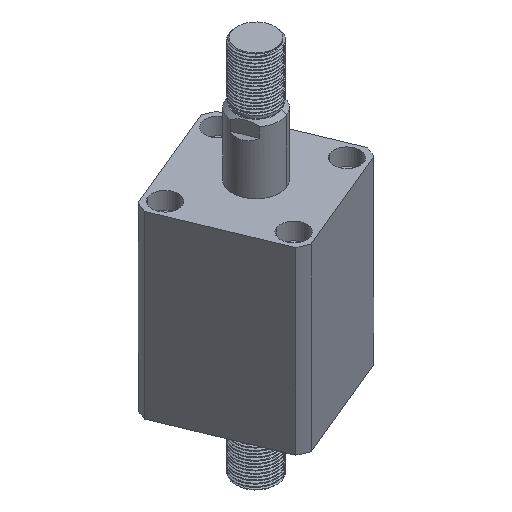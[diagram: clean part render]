
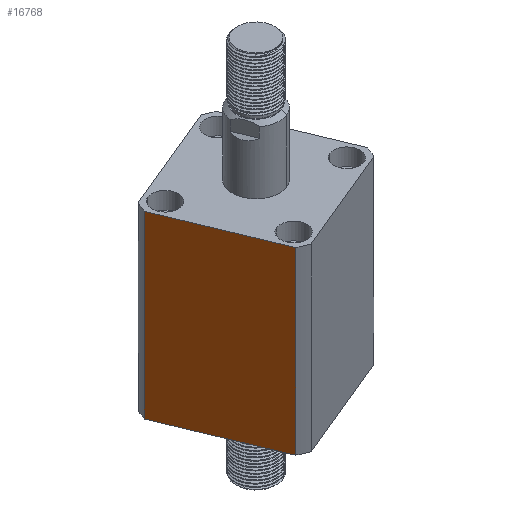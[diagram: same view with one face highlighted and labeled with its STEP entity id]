
A CAD part, isometric view. The second image highlights one B-rep face of the part: STEP entity #16768.
In plain terms, the highlighted planar face has unit normal (-0.924, -0.383, 0) as drawn and (0, -1, 0) by its records, which use the part's own axes.
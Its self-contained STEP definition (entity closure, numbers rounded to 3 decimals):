
#29 = DIRECTION ( 'NONE',  ( 1., 0., 0. ) ) ;
#248 = VERTEX_POINT ( 'NONE', #10791 ) ;
#347 = VECTOR ( 'NONE', #9401, 1000. ) ;
#438 = EDGE_CURVE ( 'NONE', #1410, #9311, #7922, .T. ) ;
#466 = VECTOR ( 'NONE', #29, 1000. ) ;
#1359 = ORIENTED_EDGE ( 'NONE', *, *, #14571, .F. ) ;
#1410 = VERTEX_POINT ( 'NONE', #3632 ) ;
#1459 = AXIS2_PLACEMENT_3D ( 'NONE', #15165, #13771, #9728 ) ;
#1797 = LINE ( 'NONE', #2937, #12164 ) ;
#2663 = CARTESIAN_POINT ( 'NONE',  ( 30.615, -35., 0. ) ) ;
#2937 = CARTESIAN_POINT ( 'NONE',  ( 30.615, -35., -205. ) ) ;
#3107 = CARTESIAN_POINT ( 'NONE',  ( -30.615, -35., 95. ) ) ;
#3632 = CARTESIAN_POINT ( 'NONE',  ( -30.615, -35., 0. ) ) ;
#4299 = LINE ( 'NONE', #11983, #14706 ) ;
#5868 = VERTEX_POINT ( 'NONE', #2663 ) ;
#7635 = LINE ( 'NONE', #8118, #466 ) ;
#7922 = LINE ( 'NONE', #12533, #347 ) ;
#8118 = CARTESIAN_POINT ( 'NONE',  ( -35., -35., 95. ) ) ;
#8235 = EDGE_CURVE ( 'NONE', #1410, #5868, #4299, .T. ) ;
#8368 = PLANE ( 'NONE',  #1459 ) ;
#8531 = ORIENTED_EDGE ( 'NONE', *, *, #8235, .T. ) ;
#9311 = VERTEX_POINT ( 'NONE', #3107 ) ;
#9401 = DIRECTION ( 'NONE',  ( 0., 0., 1. ) ) ;
#9728 = DIRECTION ( 'NONE',  ( 0., 0., 1. ) ) ;
#9812 = ORIENTED_EDGE ( 'NONE', *, *, #11401, .F. ) ;
#10791 = CARTESIAN_POINT ( 'NONE',  ( 30.615, -35., 95. ) ) ;
#11002 = DIRECTION ( 'NONE',  ( 0., 0., -1. ) ) ;
#11401 = EDGE_CURVE ( 'NONE', #9311, #248, #7635, .T. ) ;
#11649 = ORIENTED_EDGE ( 'NONE', *, *, #438, .F. ) ;
#11891 = FACE_OUTER_BOUND ( 'NONE', #13727, .T. ) ;
#11983 = CARTESIAN_POINT ( 'NONE',  ( -35., -35., 0. ) ) ;
#12040 = DIRECTION ( 'NONE',  ( 1., 0., 0. ) ) ;
#12164 = VECTOR ( 'NONE', #11002, 1000. ) ;
#12533 = CARTESIAN_POINT ( 'NONE',  ( -30.615, -35., -205. ) ) ;
#13727 = EDGE_LOOP ( 'NONE', ( #11649, #8531, #1359, #9812 ) ) ;
#13771 = DIRECTION ( 'NONE',  ( 0., 1., 0. ) ) ;
#14571 = EDGE_CURVE ( 'NONE', #248, #5868, #1797, .T. ) ;
#14706 = VECTOR ( 'NONE', #12040, 1000. ) ;
#15165 = CARTESIAN_POINT ( 'NONE',  ( -35., -35., 95. ) ) ;
#16768 = ADVANCED_FACE ( 'NONE', ( #11891 ), #8368, .F. ) ;
